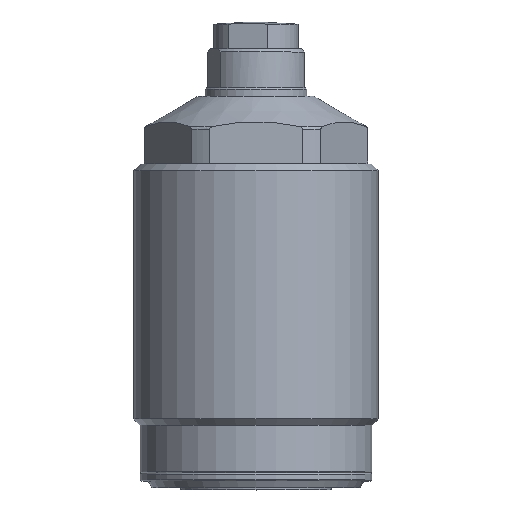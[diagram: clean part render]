
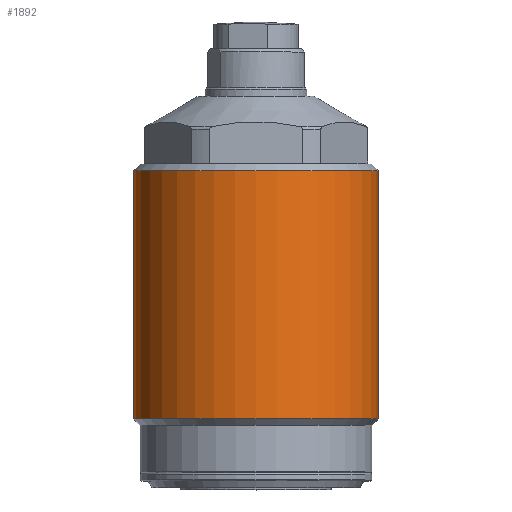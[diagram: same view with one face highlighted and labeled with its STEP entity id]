
A CAD part, top view. The second image highlights one B-rep face of the part: STEP entity #1892.
In plain terms, the highlighted cylindrical face has radius 18 mm (diameter 36 mm), a full revolution.
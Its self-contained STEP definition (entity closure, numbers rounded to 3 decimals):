
#1864=CYLINDRICAL_SURFACE('',#5917,18.);
#1892=ADVANCED_FACE('',(#2294,#2295),#1864,.T.);
#2294=FACE_BOUND('',#2391,.T.);
#2295=FACE_BOUND('',#2392,.T.);
#2391=EDGE_LOOP('',(#2781));
#2392=EDGE_LOOP('',(#2782));
#2700=CIRCLE('',#5914,18.);
#2701=CIRCLE('',#5916,18.);
#2781=ORIENTED_EDGE('',*,*,#4440,.F.);
#2782=ORIENTED_EDGE('',*,*,#4441,.T.);
#4016=VERTEX_POINT('',#7190);
#4017=VERTEX_POINT('',#7193);
#4440=EDGE_CURVE('',#4016,#4016,#2700,.T.);
#4441=EDGE_CURVE('',#4017,#4017,#2701,.T.);
#5914=AXIS2_PLACEMENT_3D('',#7189,#6199,#6200);
#5916=AXIS2_PLACEMENT_3D('',#7192,#6203,#6204);
#5917=AXIS2_PLACEMENT_3D('',#7194,#6205,#6206);
#6199=DIRECTION('',(0.,-1.,0.));
#6200=DIRECTION('',(0.,0.,-1.));
#6203=DIRECTION('',(0.,-1.,0.));
#6204=DIRECTION('',(0.,0.,-1.));
#6205=DIRECTION('',(0.,-1.,0.));
#6206=DIRECTION('',(0.,0.,1.));
#7189=CARTESIAN_POINT('',(-7.619,10.45,0.));
#7190=CARTESIAN_POINT('',(-7.619,10.45,-18.));
#7192=CARTESIAN_POINT('',(-7.619,47.,0.));
#7193=CARTESIAN_POINT('',(-7.619,47.,-18.));
#7194=CARTESIAN_POINT('',(-7.619,-4.215,0.));
